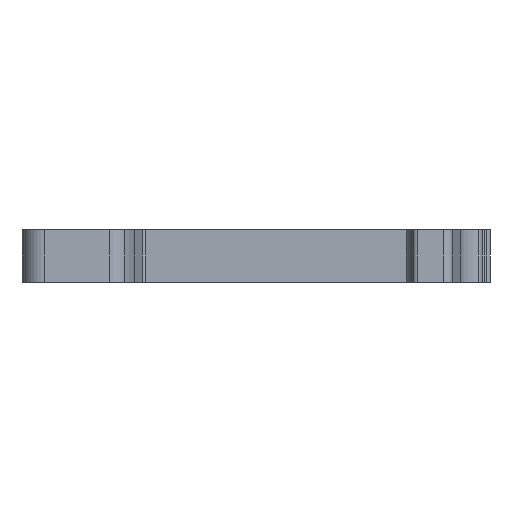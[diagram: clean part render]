
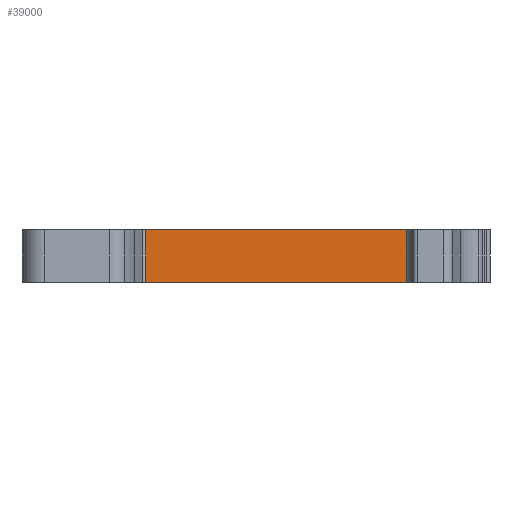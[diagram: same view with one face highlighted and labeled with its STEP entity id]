
A CAD part, front view. The second image highlights one B-rep face of the part: STEP entity #39000.
In plain terms, the highlighted planar face has unit normal (0, -1, 0).
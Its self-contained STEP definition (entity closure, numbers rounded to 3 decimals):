
#4980=CARTESIAN_POINT('',(17.5,0.,0.)
);
#4990=VERTEX_POINT('',#4980);
#5020=CARTESIAN_POINT('',(-14.8,0.,
0.));
#5030=DIRECTION('',(1.,0.,0.));
#5040=VECTOR('',#5030,1.);
#5050=LINE('',#5020,#5040);
#5060=CARTESIAN_POINT('',(-14.8,0.,
0.));
#5070=VERTEX_POINT('',#5060);
#5080=EDGE_CURVE('',#5070,#4990,#5050,.T.);
#30450=CARTESIAN_POINT('',(-14.8,0.,-6.2))
;
#30460=VERTEX_POINT('',#30450);
#30490=CARTESIAN_POINT('',(-14.8,0.,-6.2))
;
#30500=DIRECTION('',(1.,0.,0.));
#30510=VECTOR('',#30500,1.);
#30520=LINE('',#30490,#30510);
#30530=CARTESIAN_POINT('',(17.5,0.,-6.2));
#30540=VERTEX_POINT('',#30530);
#30550=EDGE_CURVE('',#30460,#30540,#30520,.T.);
#38730=CARTESIAN_POINT('',(-14.8,0.,
0.));
#38740=DIRECTION('',(0.,0.,-1.));
#38750=VECTOR('',#38740,1.);
#38760=LINE('',#38730,#38750);
#38770=EDGE_CURVE('',#5070,#30460,#38760,.T.);
#38840=CARTESIAN_POINT('',(17.5,0.,-0.));
#38850=DIRECTION('',(-0.,1.,-0.));
#38860=DIRECTION('',(1.,0.,0.));
#38870=AXIS2_PLACEMENT_3D('',#38840,#38850,#38860);
#38880=PLANE('',#38870);
#38890=ORIENTED_EDGE('',*,*,#38770,.T.);
#38900=ORIENTED_EDGE('',*,*,#5080,.F.);
#38910=CARTESIAN_POINT('',(17.5,0.,
0.));
#38920=DIRECTION('',(0.,0.,-1.));
#38930=VECTOR('',#38920,1.);
#38940=LINE('',#38910,#38930);
#38950=EDGE_CURVE('',#4990,#30540,#38940,.T.);
#38960=ORIENTED_EDGE('',*,*,#38950,.F.);
#38970=ORIENTED_EDGE('',*,*,#30550,.T.);
#38980=EDGE_LOOP('',(#38970,#38960,#38900,#38890));
#38990=FACE_OUTER_BOUND('',#38980,.T.);
#39000=ADVANCED_FACE('',(#38990),#38880,.F.);
